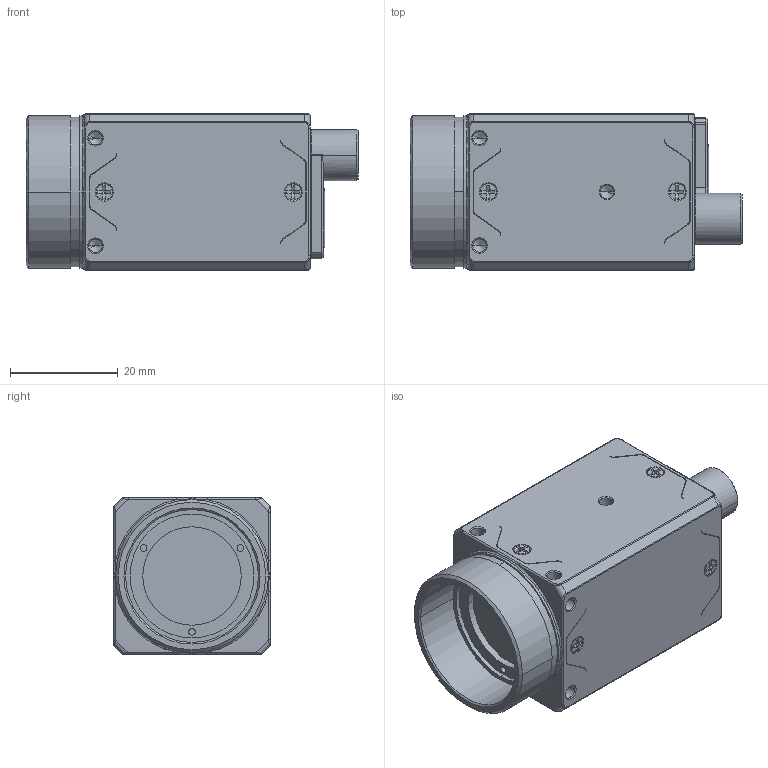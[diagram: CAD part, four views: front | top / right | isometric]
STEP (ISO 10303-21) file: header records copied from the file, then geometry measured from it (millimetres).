
FILE_DESCRIPTION((''),'2;1');
FILE_NAME('MV-CT050G-24GC01-BASE','2025-08-26T19:16:21',('sunli10'),(''),'CREO PARAMETRIC BY PTC INC, 2020044','CREO PARAMETRIC BY PTC INC, 2020044','');
FILE_SCHEMA(('CONFIG_CONTROL_DESIGN'));
Products named in the file (1): MV-CT050G-24GC01-BASE
Bounding box: 61.71 x 29 x 29 mm (x, y, z)
Volume: 36024.7 mm3; surface area: 18138.4 mm2
Topology: 5 solids, 30 shells, 2449 faces, 6566 edges, 4169 vertices
Faces by surface type: plane 1205, cylinder 827, cone 296, torus 66, bspline 51, sphere 4
Entity records: 83331 total; most frequent: CARTESIAN_POINT 21471, ORIENTED_EDGE 12996, DIRECTION 12982, EDGE_CURVE 6498, AXIS2_PLACEMENT_3D 4501, VERTEX_POINT 4167, VECTOR 3980, LINE 3980
